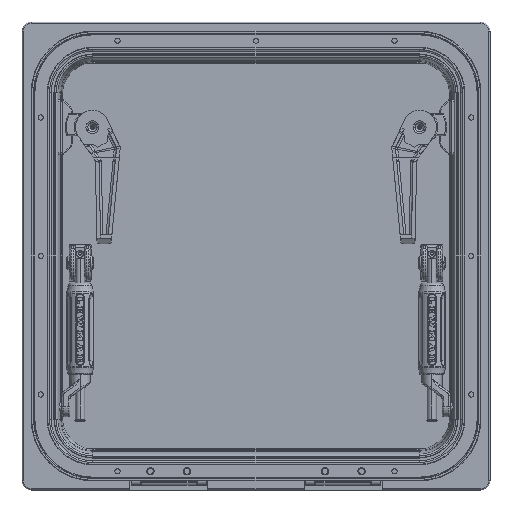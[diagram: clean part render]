
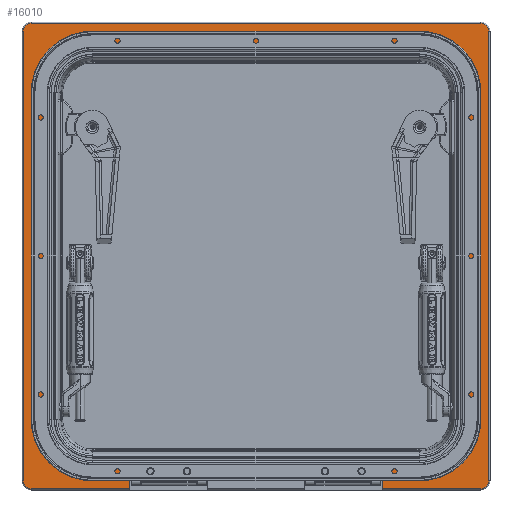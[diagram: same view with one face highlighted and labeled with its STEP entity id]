
A CAD part, front view. The second image highlights one B-rep face of the part: STEP entity #16010.
In plain terms, the highlighted planar face has unit normal (0, -1, 0).
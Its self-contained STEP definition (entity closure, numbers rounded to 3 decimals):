
#14301=DIRECTION('',(0.,0.,1.));
#14302=VECTOR('',#14301,492.);
#14303=CARTESIAN_POINT('',(254.76,0.15,-246.));
#14304=LINE('',#14303,#14302);
#14310=CARTESIAN_POINT('',(246.,0.15,246.));
#14311=DIRECTION('',(0.,1.,0.));
#14312=DIRECTION('',(0.,0.,1.));
#14313=AXIS2_PLACEMENT_3D('',#14310,#14311,#14312);
#14330=CARTESIAN_POINT('',(246.,0.15,-246.));
#14331=DIRECTION('',(0.,1.,0.));
#14332=DIRECTION('',(1.,0.,0.));
#14333=AXIS2_PLACEMENT_3D('',#14330,#14331,#14332);
#14389=DIRECTION('',(0.,0.,-1.));
#14390=VECTOR('',#14389,22.76);
#14391=CARTESIAN_POINT('',(-138.25,0.15,-232.));
#14392=LINE('',#14391,#14390);
#14818=DIRECTION('',(1.,0.,0.));
#14819=VECTOR('',#14818,107.75);
#14820=CARTESIAN_POINT('',(138.25,0.15,-254.76));
#14821=LINE('',#14820,#14819);
#14831=DIRECTION('',(1.,0.,0.));
#14832=VECTOR('',#14831,107.75);
#14833=CARTESIAN_POINT('',(-246.,0.15,-254.76));
#14834=LINE('',#14833,#14832);
#14858=DIRECTION('',(0.,0.,1.));
#14859=VECTOR('',#14858,22.76);
#14860=CARTESIAN_POINT('',(138.25,0.15,-254.76));
#14861=LINE('',#14860,#14859);
#14904=DIRECTION('',(1.,0.,0.));
#14905=VECTOR('',#14904,42.75);
#14906=CARTESIAN_POINT('',(138.25,0.15,-232.));
#14907=LINE('',#14906,#14905);
#14920=DIRECTION('',(1.,0.,0.));
#14921=VECTOR('',#14920,42.75);
#14922=CARTESIAN_POINT('',(-181.,0.15,-232.));
#14923=LINE('',#14922,#14921);
#14940=CARTESIAN_POINT('',(181.,0.15,-180.));
#14941=DIRECTION('',(0.,-1.,0.));
#14942=DIRECTION('',(0.,0.,-1.));
#14943=AXIS2_PLACEMENT_3D('',#14940,#14941,#14942);
#14949=DIRECTION('',(0.,0.,1.));
#14950=VECTOR('',#14949,360.);
#14951=CARTESIAN_POINT('',(233.,0.15,-180.));
#14952=LINE('',#14951,#14950);
#14957=CARTESIAN_POINT('',(181.,0.15,180.));
#14958=DIRECTION('',(0.,-1.,0.));
#14959=DIRECTION('',(1.,0.,0.));
#14960=AXIS2_PLACEMENT_3D('',#14957,#14958,#14959);
#14966=DIRECTION('',(-1.,0.,0.));
#14967=VECTOR('',#14966,362.);
#14968=CARTESIAN_POINT('',(181.,0.15,232.));
#14969=LINE('',#14968,#14967);
#14974=CARTESIAN_POINT('',(-181.,0.15,180.));
#14975=DIRECTION('',(0.,-1.,0.));
#14976=DIRECTION('',(0.,0.,1.));
#14977=AXIS2_PLACEMENT_3D('',#14974,#14975,#14976);
#14983=DIRECTION('',(0.,0.,-1.));
#14984=VECTOR('',#14983,360.);
#14985=CARTESIAN_POINT('',(-233.,0.15,180.));
#14986=LINE('',#14985,#14984);
#14991=CARTESIAN_POINT('',(-181.,0.15,-180.));
#14992=DIRECTION('',(0.,-1.,0.));
#14993=DIRECTION('',(-1.,0.,0.));
#14994=AXIS2_PLACEMENT_3D('',#14991,#14992,#14993);
#15134=CARTESIAN_POINT('',(-246.,0.15,-246.));
#15135=DIRECTION('',(0.,1.,0.));
#15136=DIRECTION('',(0.,0.,-1.));
#15137=AXIS2_PLACEMENT_3D('',#15134,#15135,#15136);
#15156=DIRECTION('',(0.,0.,-1.));
#15157=VECTOR('',#15156,492.);
#15158=CARTESIAN_POINT('',(-254.76,0.15,246.));
#15159=LINE('',#15158,#15157);
#15170=CARTESIAN_POINT('',(-246.,0.15,246.));
#15171=DIRECTION('',(0.,1.,0.));
#15172=DIRECTION('',(-1.,0.,0.));
#15173=AXIS2_PLACEMENT_3D('',#15170,#15171,#15172);
#15188=DIRECTION('',(-1.,0.,0.));
#15189=VECTOR('',#15188,492.);
#15190=CARTESIAN_POINT('',(246.,0.15,254.76));
#15191=LINE('',#15190,#15189);
#15560=CARTESIAN_POINT('',(254.76,0.15,246.));
#15561=VERTEX_POINT('',#15560);
#15562=CARTESIAN_POINT('',(246.,0.15,254.76));
#15563=VERTEX_POINT('',#15562);
#15564=CARTESIAN_POINT('',(254.76,0.15,-246.));
#15565=VERTEX_POINT('',#15564);
#15566=CARTESIAN_POINT('',(246.,0.15,-254.76));
#15567=VERTEX_POINT('',#15566);
#15568=CARTESIAN_POINT('',(-246.,0.15,-254.76));
#15569=VERTEX_POINT('',#15568);
#15570=CARTESIAN_POINT('',(-254.76,0.15,-246.));
#15571=VERTEX_POINT('',#15570);
#15572=CARTESIAN_POINT('',(-254.76,0.15,246.));
#15573=VERTEX_POINT('',#15572);
#15574=CARTESIAN_POINT('',(-246.,0.15,254.76));
#15575=VERTEX_POINT('',#15574);
#15576=CARTESIAN_POINT('',(181.,0.15,-232.));
#15577=VERTEX_POINT('',#15576);
#15578=CARTESIAN_POINT('',(233.,0.15,-180.));
#15579=VERTEX_POINT('',#15578);
#15580=CARTESIAN_POINT('',(233.,0.15,180.));
#15581=VERTEX_POINT('',#15580);
#15582=CARTESIAN_POINT('',(181.,0.15,232.));
#15583=VERTEX_POINT('',#15582);
#15584=CARTESIAN_POINT('',(-181.,0.15,232.));
#15585=VERTEX_POINT('',#15584);
#15586=CARTESIAN_POINT('',(-233.,0.15,180.));
#15587=VERTEX_POINT('',#15586);
#15588=CARTESIAN_POINT('',(-233.,0.15,-180.));
#15589=VERTEX_POINT('',#15588);
#15590=CARTESIAN_POINT('',(-181.,0.15,-232.));
#15591=VERTEX_POINT('',#15590);
#15594=CARTESIAN_POINT('',(138.25,0.15,-232.));
#15595=VERTEX_POINT('',#15594);
#15596=CARTESIAN_POINT('',(-138.25,0.15,-232.));
#15597=VERTEX_POINT('',#15596);
#15600=CARTESIAN_POINT('',(-138.25,0.15,-254.76));
#15601=VERTEX_POINT('',#15600);
#15606=CARTESIAN_POINT('',(138.25,0.15,-254.76));
#15607=VERTEX_POINT('',#15606);
#15965=CARTESIAN_POINT('',(-181.,0.15,-232.));
#15966=DIRECTION('',(0.,-1.,0.));
#15967=DIRECTION('',(-1.,0.,0.));
#15968=AXIS2_PLACEMENT_3D('',#15965,#15966,#15967);
#15969=PLANE('',#15968);
#15970=ORIENTED_EDGE('',*,*,#15956,.T.);
#15971=ORIENTED_EDGE('',*,*,#15945,.F.);
#15973=ORIENTED_EDGE('',*,*,#15972,.T.);
#15975=ORIENTED_EDGE('',*,*,#15974,.F.);
#15977=ORIENTED_EDGE('',*,*,#15976,.T.);
#15979=ORIENTED_EDGE('',*,*,#15978,.T.);
#15981=ORIENTED_EDGE('',*,*,#15980,.T.);
#15983=ORIENTED_EDGE('',*,*,#15982,.T.);
#15985=ORIENTED_EDGE('',*,*,#15984,.T.);
#15987=ORIENTED_EDGE('',*,*,#15986,.T.);
#15989=ORIENTED_EDGE('',*,*,#15988,.T.);
#15991=ORIENTED_EDGE('',*,*,#15990,.T.);
#15993=ORIENTED_EDGE('',*,*,#15992,.T.);
#15995=ORIENTED_EDGE('',*,*,#15994,.T.);
#15997=ORIENTED_EDGE('',*,*,#15996,.T.);
#15999=ORIENTED_EDGE('',*,*,#15998,.F.);
#16001=ORIENTED_EDGE('',*,*,#16000,.T.);
#16003=ORIENTED_EDGE('',*,*,#16002,.F.);
#16005=ORIENTED_EDGE('',*,*,#16004,.T.);
#16007=ORIENTED_EDGE('',*,*,#16006,.F.);
#16008=EDGE_LOOP('',(#15970,#15971,#15973,#15975,#15977,#15979,#15981,#15983,
#15985,#15987,#15989,#15991,#15993,#15995,#15997,#15999,#16001,#16003,#16005,
#16007));
#16009=FACE_OUTER_BOUND('',#16008,.F.);
#16010=ADVANCED_FACE('',(#16009),#15969,.T.);
#14314=CIRCLE('',#14313,8.76);
#14334=CIRCLE('',#14333,8.76);
#14944=CIRCLE('',#14943,52.);
#14961=CIRCLE('',#14960,52.);
#14978=CIRCLE('',#14977,52.);
#14995=CIRCLE('',#14994,52.);
#15138=CIRCLE('',#15137,8.76);
#15174=CIRCLE('',#15173,8.76);
#15945=EDGE_CURVE('',#15565,#15561,#14304,.T.);
#15956=EDGE_CURVE('',#15563,#15561,#14314,.T.);
#15972=EDGE_CURVE('',#15565,#15567,#14334,.T.);
#15974=EDGE_CURVE('',#15607,#15567,#14821,.T.);
#15976=EDGE_CURVE('',#15607,#15595,#14861,.T.);
#15978=EDGE_CURVE('',#15595,#15577,#14907,.T.);
#15980=EDGE_CURVE('',#15577,#15579,#14944,.T.);
#15982=EDGE_CURVE('',#15579,#15581,#14952,.T.);
#15984=EDGE_CURVE('',#15581,#15583,#14961,.T.);
#15986=EDGE_CURVE('',#15583,#15585,#14969,.T.);
#15988=EDGE_CURVE('',#15585,#15587,#14978,.T.);
#15990=EDGE_CURVE('',#15587,#15589,#14986,.T.);
#15992=EDGE_CURVE('',#15589,#15591,#14995,.T.);
#15994=EDGE_CURVE('',#15591,#15597,#14923,.T.);
#15996=EDGE_CURVE('',#15597,#15601,#14392,.T.);
#15998=EDGE_CURVE('',#15569,#15601,#14834,.T.);
#16000=EDGE_CURVE('',#15569,#15571,#15138,.T.);
#16002=EDGE_CURVE('',#15573,#15571,#15159,.T.);
#16004=EDGE_CURVE('',#15573,#15575,#15174,.T.);
#16006=EDGE_CURVE('',#15563,#15575,#15191,.T.);
